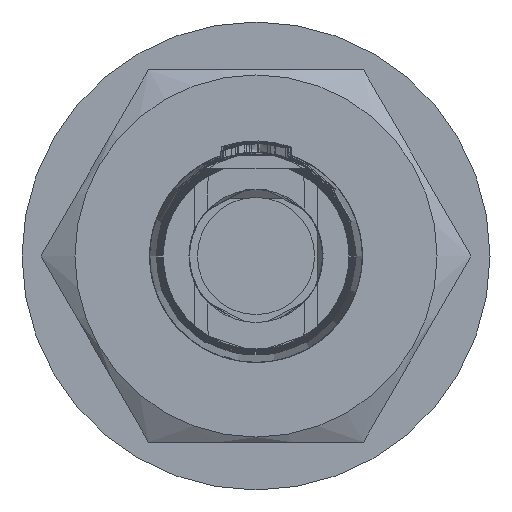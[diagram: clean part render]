
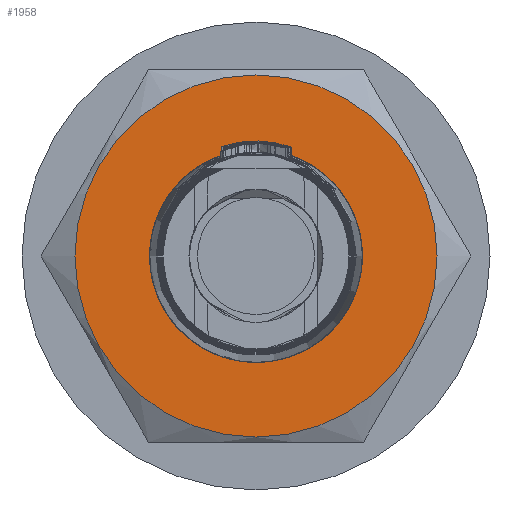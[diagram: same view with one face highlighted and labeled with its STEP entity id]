
A CAD part, front view. The second image highlights one B-rep face of the part: STEP entity #1958.
In plain terms, the highlighted planar face has unit normal (0, -1, 0).
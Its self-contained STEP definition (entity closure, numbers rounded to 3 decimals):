
#1287=PLANE('',#10072);
#1461=FACE_BOUND('',#3220,.T.);
#1958=ADVANCED_FACE('',(#1461,#2586),#1287,.T.);
#2586=FACE_OUTER_BOUND('',#3221,.T.);
#3220=EDGE_LOOP('',(#6690,#6691,#6692,#6693));
#3221=EDGE_LOOP('',(#6694));
#3986=B_SPLINE_CURVE_WITH_KNOTS('',3,(#43481,#43482,#43483,#43484,#43485,
#43486,#43487,#43488,#43489,#43490,#43491,#43492,#43493,#43494,#43495,#43496),
.UNSPECIFIED.,.F.,.F.,(4,3,3,3,3,4),(0.,0.22,0.453,
0.701,0.945,1.),.UNSPECIFIED.);
#3987=B_SPLINE_CURVE_WITH_KNOTS('',3,(#43500,#43501,#43502,#43503,#43504,
#43505,#43506,#43507,#43508,#43509,#43510,#43511,#43512),.UNSPECIFIED.,.F.,
.F.,(4,3,3,3,4),(0.,0.239,0.495,0.757,
1.),.UNSPECIFIED.);
#6690=ORIENTED_EDGE('',*,*,#9041,.T.);
#6691=ORIENTED_EDGE('',*,*,#9042,.F.);
#6692=ORIENTED_EDGE('',*,*,#9043,.T.);
#6693=ORIENTED_EDGE('',*,*,#9044,.F.);
#6694=ORIENTED_EDGE('',*,*,#9033,.F.);
#7667=VERTEX_POINT('',#43442);
#7674=VERTEX_POINT('',#43479);
#7675=VERTEX_POINT('',#43480);
#7676=VERTEX_POINT('',#43497);
#7677=VERTEX_POINT('',#43499);
#9033=EDGE_CURVE('',#7667,#7667,#9375,.T.);
#9041=EDGE_CURVE('',#7674,#7675,#9376,.T.);
#9042=EDGE_CURVE('',#7676,#7675,#3986,.T.);
#9043=EDGE_CURVE('',#7676,#7677,#9377,.T.);
#9044=EDGE_CURVE('',#7674,#7677,#3987,.T.);
#9375=CIRCLE('',#10068,3.405);
#9376=CIRCLE('',#10070,1.5);
#9377=CIRCLE('',#10071,1.315);
#10068=AXIS2_PLACEMENT_3D('',#43441,#11920,#11921);
#10070=AXIS2_PLACEMENT_3D('',#43478,#11924,#11925);
#10071=AXIS2_PLACEMENT_3D('',#43498,#11926,#11927);
#10072=AXIS2_PLACEMENT_3D('',#43513,#11928,#11929);
#11920=DIRECTION('',(0.,1.,0.));
#11921=DIRECTION('',(-1.,0.,0.));
#11924=DIRECTION('',(0.,1.,0.));
#11925=DIRECTION('',(1.,0.,0.));
#11926=DIRECTION('',(0.,1.,0.));
#11927=DIRECTION('',(1.,0.,0.));
#11928=DIRECTION('',(0.,-1.,0.));
#11929=DIRECTION('',(1.,0.,0.));
#43441=CARTESIAN_POINT('',(0.,-31.75,0.));
#43442=CARTESIAN_POINT('',(3.405,-31.75,0.));
#43478=CARTESIAN_POINT('',(0.,-31.75,0.));
#43479=CARTESIAN_POINT('',(-0.183,-31.75,-1.489));
#43480=CARTESIAN_POINT('',(-1.474,-31.75,0.28));
#43481=CARTESIAN_POINT('',(-0.044,-31.75,1.314));
#43482=CARTESIAN_POINT('',(-0.183,-31.75,1.324));
#43483=CARTESIAN_POINT('',(-0.325,-31.75,1.31));
#43484=CARTESIAN_POINT('',(-0.46,-31.75,1.276));
#43485=CARTESIAN_POINT('',(-0.603,-31.75,1.24));
#43486=CARTESIAN_POINT('',(-0.742,-31.75,1.18));
#43487=CARTESIAN_POINT('',(-0.867,-31.75,1.101));
#43488=CARTESIAN_POINT('',(-0.999,-31.75,1.018));
#43489=CARTESIAN_POINT('',(-1.118,-31.75,0.909));
#43490=CARTESIAN_POINT('',(-1.215,-31.75,0.786));
#43491=CARTESIAN_POINT('',(-1.31,-31.75,0.664));
#43492=CARTESIAN_POINT('',(-1.387,-31.75,0.525));
#43493=CARTESIAN_POINT('',(-1.44,-31.75,0.38));
#43494=CARTESIAN_POINT('',(-1.453,-31.75,0.347));
#43495=CARTESIAN_POINT('',(-1.464,-31.75,0.314));
#43496=CARTESIAN_POINT('',(-1.474,-31.75,0.28));
#43497=CARTESIAN_POINT('',(-0.044,-31.75,1.314));
#43498=CARTESIAN_POINT('',(0.,-31.75,0.));
#43499=CARTESIAN_POINT('',(1.231,-31.75,-0.462));
#43500=CARTESIAN_POINT('',(-0.183,-31.75,-1.489));
#43501=CARTESIAN_POINT('',(-0.034,-31.75,-1.494));
#43502=CARTESIAN_POINT('',(0.118,-31.75,-1.475));
#43503=CARTESIAN_POINT('',(0.262,-31.75,-1.434));
#43504=CARTESIAN_POINT('',(0.416,-31.75,-1.39));
#43505=CARTESIAN_POINT('',(0.565,-31.75,-1.319));
#43506=CARTESIAN_POINT('',(0.696,-31.75,-1.227));
#43507=CARTESIAN_POINT('',(0.831,-31.75,-1.133));
#43508=CARTESIAN_POINT('',(0.951,-31.75,-1.014));
#43509=CARTESIAN_POINT('',(1.043,-31.75,-0.878));
#43510=CARTESIAN_POINT('',(1.128,-31.75,-0.752));
#43511=CARTESIAN_POINT('',(1.192,-31.75,-0.61));
#43512=CARTESIAN_POINT('',(1.231,-31.75,-0.462));
#43513=CARTESIAN_POINT('',(-6.953,-31.75,-9.84));
